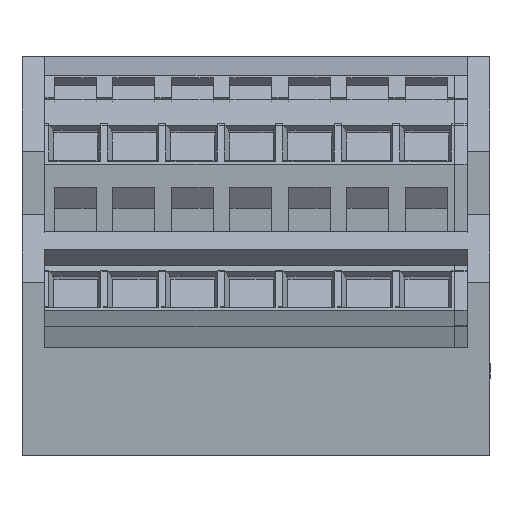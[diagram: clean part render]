
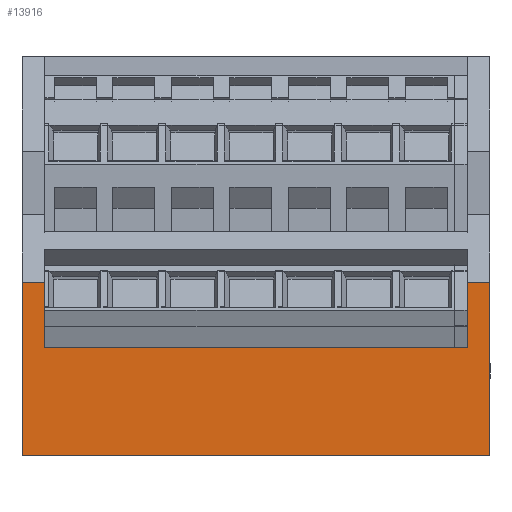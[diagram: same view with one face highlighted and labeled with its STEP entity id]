
A CAD part, left-side view. The second image highlights one B-rep face of the part: STEP entity #13916.
In plain terms, the highlighted planar face has unit normal (-1, 0, 0).
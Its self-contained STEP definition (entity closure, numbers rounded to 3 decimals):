
#6701=CARTESIAN_POINT('',(-43.5,-20.0,7.2));
#6702=VERTEX_POINT('',#6701);
#6709=CARTESIAN_POINT('',(-43.5,-20.,-7.6));
#6710=VERTEX_POINT('',#6709);
#6711=CARTESIAN_POINT('',(-43.5,-20.0,-7.6));
#6712=DIRECTION('',(0.0,0.0,1.0));
#6713=VECTOR('',#6712,14.8);
#6714=LINE('',#6711,#6713);
#6715=EDGE_CURVE('',#6710,#6702,#6714,.T.);
#8663=CARTESIAN_POINT('',(-43.5,20.0,-7.6));
#8664=VERTEX_POINT('',#8663);
#8671=CARTESIAN_POINT('',(-43.5,20.0,7.2));
#8672=VERTEX_POINT('',#8671);
#8673=CARTESIAN_POINT('',(-43.5,20.0,-7.6));
#8674=DIRECTION('',(0.0,0.0,1.0));
#8675=VECTOR('',#8674,14.8);
#8676=LINE('',#8673,#8675);
#8677=EDGE_CURVE('',#8664,#8672,#8676,.T.);
#13805=CARTESIAN_POINT('',(-43.5,18.1,7.2));
#13806=VERTEX_POINT('',#13805);
#13807=CARTESIAN_POINT('',(-43.5,18.1,7.2));
#13808=DIRECTION('',(0.0,1.0,0.0));
#13809=VECTOR('',#13808,1.9);
#13810=LINE('',#13807,#13809);
#13811=EDGE_CURVE('',#13806,#8672,#13810,.T.);
#13829=CARTESIAN_POINT('',(-43.5,-18.1,7.2));
#13830=VERTEX_POINT('',#13829);
#13837=CARTESIAN_POINT('',(-43.5,-20.0,7.2));
#13838=DIRECTION('',(0.0,1.0,0.0));
#13839=VECTOR('',#13838,1.9);
#13840=LINE('',#13837,#13839);
#13841=EDGE_CURVE('',#6702,#13830,#13840,.T.);
#13877=CARTESIAN_POINT('',(-43.5,-20.0,0.0));
#13878=DIRECTION('',(-1.0,0.0,0.0));
#13879=DIRECTION('',(0.0,0.0,1.0));
#13880=AXIS2_PLACEMENT_3D('',#13877,#13878,#13879);
#13881=PLANE('',#13880);
#13882=ORIENTED_EDGE('',*,*,#6715,.T.);
#13883=ORIENTED_EDGE('',*,*,#13841,.T.);
#13884=CARTESIAN_POINT('',(-43.5,-18.1,1.6));
#13885=VERTEX_POINT('',#13884);
#13886=CARTESIAN_POINT('',(-43.5,-18.1,7.2));
#13887=DIRECTION('',(0.0,0.0,-1.0));
#13888=VECTOR('',#13887,5.6);
#13889=LINE('',#13886,#13888);
#13890=EDGE_CURVE('',#13830,#13885,#13889,.T.);
#13891=ORIENTED_EDGE('',*,*,#13890,.T.);
#13892=CARTESIAN_POINT('',(-43.5,18.1,1.6));
#13893=VERTEX_POINT('',#13892);
#13894=CARTESIAN_POINT('',(-43.5,-18.1,1.6));
#13895=DIRECTION('',(0.0,1.0,0.0));
#13896=VECTOR('',#13895,36.2);
#13897=LINE('',#13894,#13896);
#13898=EDGE_CURVE('',#13885,#13893,#13897,.T.);
#13899=ORIENTED_EDGE('',*,*,#13898,.T.);
#13900=CARTESIAN_POINT('',(-43.5,18.1,1.6));
#13901=DIRECTION('',(0.0,0.0,1.0));
#13902=VECTOR('',#13901,5.6);
#13903=LINE('',#13900,#13902);
#13904=EDGE_CURVE('',#13893,#13806,#13903,.T.);
#13905=ORIENTED_EDGE('',*,*,#13904,.T.);
#13906=ORIENTED_EDGE('',*,*,#13811,.T.);
#13907=ORIENTED_EDGE('',*,*,#8677,.F.);
#13908=CARTESIAN_POINT('',(-43.5,20.0,-7.6));
#13909=DIRECTION('',(0.0,-1.0,0.0));
#13910=VECTOR('',#13909,40.);
#13911=LINE('',#13908,#13910);
#13912=EDGE_CURVE('',#8664,#6710,#13911,.T.);
#13913=ORIENTED_EDGE('',*,*,#13912,.T.);
#13914=EDGE_LOOP('',(#13882,#13883,#13891,#13899,#13905,#13906,#13907,#13913));
#13915=FACE_OUTER_BOUND('',#13914,.T.);
#13916=ADVANCED_FACE('',(#13915),#13881,.T.);
